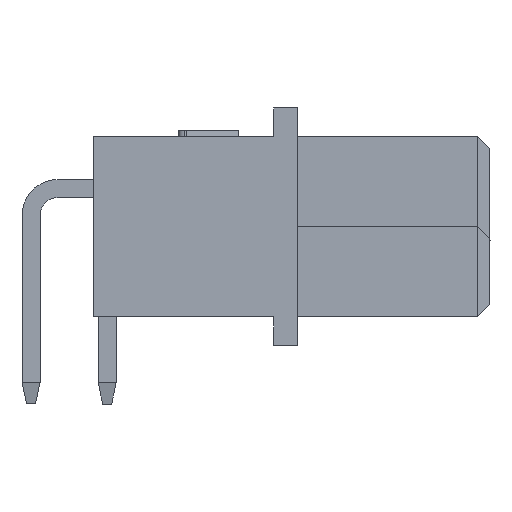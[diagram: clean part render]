
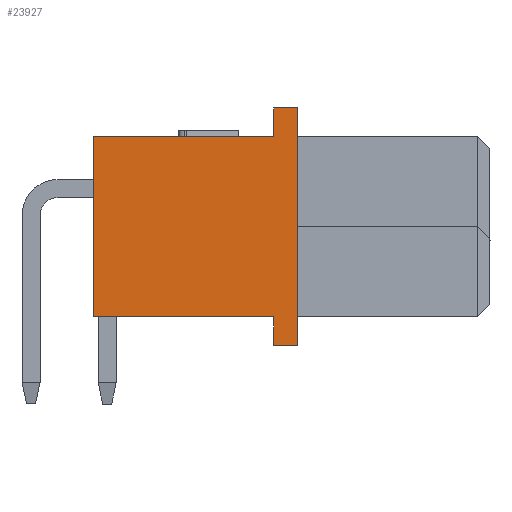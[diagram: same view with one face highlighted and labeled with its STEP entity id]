
A CAD part, left-side view. The second image highlights one B-rep face of the part: STEP entity #23927.
In plain terms, the highlighted planar face has unit normal (-1, 0, 0).
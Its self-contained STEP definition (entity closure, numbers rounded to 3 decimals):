
#749 = CARTESIAN_POINT ( 'NONE',  ( -48.644, 10.281, -3. ) ) ;
#2595 = VERTEX_POINT ( 'NONE', #749 ) ;
#4315 = CARTESIAN_POINT ( 'NONE',  ( -48.644, 9.481, 3.95 ) ) ;
#4708 = VECTOR ( 'NONE', #6069, 1000. ) ;
#4740 = EDGE_CURVE ( 'NONE', #16765, #16975, #26388, .T. ) ;
#4741 = EDGE_CURVE ( 'NONE', #17090, #16765, #26396, .T. ) ;
#4742 = EDGE_CURVE ( 'NONE', #17090, #16722, #26410, .T. ) ;
#4762 = EDGE_CURVE ( 'NONE', #2595, #16975, #26469, .T. ) ;
#5945 = LINE ( 'NONE', #5966, #34773 ) ;
#5951 = LINE ( 'NONE', #5972, #34806 ) ;
#5966 = CARTESIAN_POINT ( 'NONE',  ( -48.644, 9.481, 0. ) ) ;
#5967 = DIRECTION ( 'NONE',  ( 0., 0., -1. ) ) ;
#5972 = CARTESIAN_POINT ( 'NONE',  ( -48.644, 9.881, 3.95 ) ) ;
#5974 = DIRECTION ( 'NONE',  ( 0., -1., 0. ) ) ;
#6035 = LINE ( 'NONE', #6068, #4708 ) ;
#6068 = CARTESIAN_POINT ( 'NONE',  ( -48.644, 10.281, -3.5 ) ) ;
#6069 = DIRECTION ( 'NONE',  ( 0., 0., -1. ) ) ;
#6136 = LINE ( 'NONE', #6137, #37457 ) ;
#6137 = CARTESIAN_POINT ( 'NONE',  ( -48.644, 9.881, -3.95 ) ) ;
#6138 = DIRECTION ( 'NONE',  ( 0., -1., 0. ) ) ;
#6888 = VERTEX_POINT ( 'NONE', #4315 ) ;
#7510 = EDGE_LOOP ( 'NONE', ( #20693, #20701, #20741, #20743, #20747, #20762, #12716, #12714 ) ) ;
#10833 = CARTESIAN_POINT ( 'NONE',  ( -48.644, 10.281, 3.95 ) ) ;
#10876 = CARTESIAN_POINT ( 'NONE',  ( -48.644, 16.281, 3. ) ) ;
#11079 = CARTESIAN_POINT ( 'NONE',  ( -48.644, 10.281, -3.95 ) ) ;
#11086 = CARTESIAN_POINT ( 'NONE',  ( -48.644, 16.281, -3. ) ) ;
#11114 = CARTESIAN_POINT ( 'NONE',  ( -48.644, 9.481, -3.95 ) ) ;
#11201 = CARTESIAN_POINT ( 'NONE',  ( -48.644, 10.281, 3. ) ) ;
#12714 = ORIENTED_EDGE ( 'NONE', *, *, #4762, .F. ) ;
#12716 = ORIENTED_EDGE ( 'NONE', *, *, #4740, .T. ) ;
#16722 = VERTEX_POINT ( 'NONE', #10833 ) ;
#16765 = VERTEX_POINT ( 'NONE', #10876 ) ;
#16968 = VERTEX_POINT ( 'NONE', #11079 ) ;
#16975 = VERTEX_POINT ( 'NONE', #11086 ) ;
#17003 = VERTEX_POINT ( 'NONE', #11114 ) ;
#17090 = VERTEX_POINT ( 'NONE', #11201 ) ;
#18329 = VECTOR ( 'NONE', #26407, 1000. ) ;
#18334 = VECTOR ( 'NONE', #26409, 1000. ) ;
#18336 = VECTOR ( 'NONE', #26413, 1000. ) ;
#18373 = VECTOR ( 'NONE', #26471, 1000. ) ;
#20693 = ORIENTED_EDGE ( 'NONE', *, *, #32834, .T. ) ;
#20701 = ORIENTED_EDGE ( 'NONE', *, *, #32857, .T. ) ;
#20741 = ORIENTED_EDGE ( 'NONE', *, *, #32800, .F. ) ;
#20743 = ORIENTED_EDGE ( 'NONE', *, *, #32802, .F. ) ;
#20747 = ORIENTED_EDGE ( 'NONE', *, *, #4742, .F. ) ;
#20762 = ORIENTED_EDGE ( 'NONE', *, *, #4741, .T. ) ;
#23927 = ADVANCED_FACE ( 'NONE', ( #28234 ), #28236, .F. ) ;
#26388 = LINE ( 'NONE', #26405, #18329 ) ;
#26396 = LINE ( 'NONE', #26408, #18334 ) ;
#26405 = CARTESIAN_POINT ( 'NONE',  ( -48.644, 16.281, 0. ) ) ;
#26407 = DIRECTION ( 'NONE',  ( 0., 0., -1. ) ) ;
#26408 = CARTESIAN_POINT ( 'NONE',  ( -48.644, 13.281, 3. ) ) ;
#26409 = DIRECTION ( 'NONE',  ( 0., 1., 0. ) ) ;
#26410 = LINE ( 'NONE', #26412, #18336 ) ;
#26412 = CARTESIAN_POINT ( 'NONE',  ( -48.644, 10.281, 0. ) ) ;
#26413 = DIRECTION ( 'NONE',  ( 0., 0., 1. ) ) ;
#26469 = LINE ( 'NONE', #26470, #18373 ) ;
#26470 = CARTESIAN_POINT ( 'NONE',  ( -48.644, 12.881, -3. ) ) ;
#26471 = DIRECTION ( 'NONE',  ( 0., 1., 0. ) ) ;
#28219 = CARTESIAN_POINT ( 'NONE',  ( -48.644, 9.481, 4. ) ) ;
#28234 = FACE_OUTER_BOUND ( 'NONE', #7510, .T. ) ;
#28236 = PLANE ( 'NONE',  #29163 ) ;
#28240 = DIRECTION ( 'NONE',  ( 1., 0., 0. ) ) ;
#28242 = DIRECTION ( 'NONE',  ( 0., 0., -1. ) ) ;
#29163 = AXIS2_PLACEMENT_3D ( 'NONE', #28219, #28240, #28242 ) ;
#32800 = EDGE_CURVE ( 'NONE', #6888, #17003, #5945, .T. ) ;
#32802 = EDGE_CURVE ( 'NONE', #16722, #6888, #5951, .T. ) ;
#32834 = EDGE_CURVE ( 'NONE', #2595, #16968, #6035, .T. ) ;
#32857 = EDGE_CURVE ( 'NONE', #16968, #17003, #6136, .T. ) ;
#34773 = VECTOR ( 'NONE', #5967, 1000. ) ;
#34806 = VECTOR ( 'NONE', #5974, 1000. ) ;
#37457 = VECTOR ( 'NONE', #6138, 1000. ) ;
